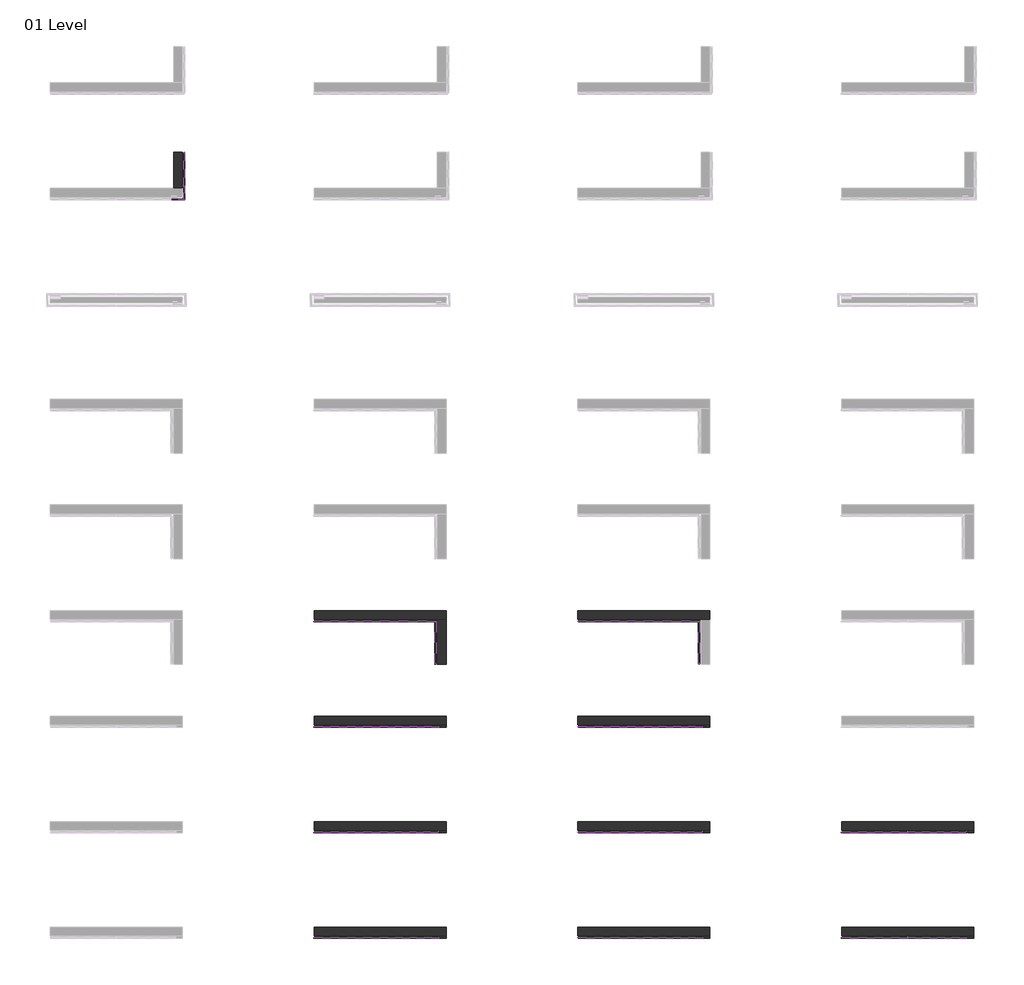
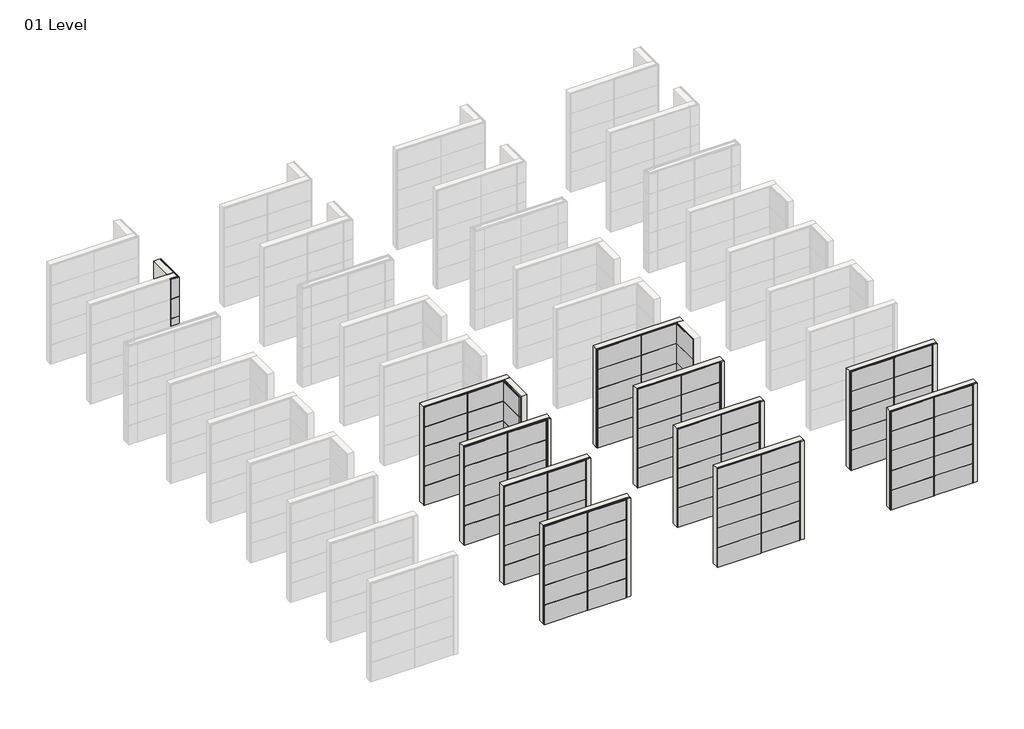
# One storey, part 2 of 9: 120 plates, 20 walls.
"""IFC4 building model written with IfcOpenShell, lengths in millimetres."""

from ifc_helpers import new_model, si_unit, frame, origin, origin_with_axes, place, context, project, spatial, polyline, outline, extrude, faceted_brep, transform, mapped, element, save
from components import plate_4ef635bb, plate_a6211809, plate_6b4a1e86, plate_a7947a21, plate_8ee23213, plate_94aa80b7, plate_22ea917c, plate_0904af44, plate_dd6e847a, plate_c598d446, plate_1391ef68, plate_2034ec5e, plate_f42e8210, plate_62c4d9ae, plate_ef433255, plate_21668e5e, plate_7a612063

model = new_model("IFC4")

# Units and contexts
model_context = context("Model", 3, world=origin())
ifc_project = project(units=[si_unit("LENGTHUNIT", "METRE", prefix="MILLI")], contexts=[model_context])

# Site, building, storey
site = spatial("IfcSite", under=ifc_project)
building = spatial("IfcBuilding", under=site)
storey = spatial("IfcBuildingStorey", under=building, Name="01 Level", Elevation=0.0)

# Plates
placement = place(None, origin())
plate_shape = plate_4ef635bb(model_context)
element("IfcPlate", 1, ObjectType="Trimo_Qbiss Screen_Normal Panel-HORIZONTAL : HR - B", at=placement, inside=storey, context=model_context, shape_type="MappedRepresentation", body=[
    mapped(plate_shape, transform((-33702.2237135, -2027.0213317, 0.0), x_axis=(0.0, -1.0, 0.0), y_axis=(1.0, 0.0, 0.0), z_axis=(0.0, 0.0, 1.0))),
])
element("IfcPlate", 2, ObjectType="Trimo_Qbiss Screen_Normal Panel-HORIZONTAL : HR - B", at=placement, inside=storey, context=model_context, shape_type="MappedRepresentation", body=[
    mapped(plate_shape, transform((-33702.2237135, -2027.0213317, 4800.0), x_axis=(0.0, -1.0, 0.0), y_axis=(1.0, 0.0, 0.0), z_axis=(0.0, 0.0, 1.0))),
])
element("IfcPlate", 3, ObjectType="Trimo_Qbiss Screen_Normal Panel-HORIZONTAL : HR - B", at=placement, inside=storey, context=model_context, shape_type="MappedRepresentation", body=[
    mapped(plate_shape, transform((-33702.2237135, -2027.0213317, 2400.0), x_axis=(0.0, -1.0, 0.0), y_axis=(1.0, 0.0, 0.0), z_axis=(0.0, 0.0, 1.0))),
])
element("IfcPlate", 4, ObjectType="Trimo_Qbiss Screen_Normal Panel-HORIZONTAL : HR - B", at=placement, inside=storey, context=model_context, shape_type="MappedRepresentation", body=[
    mapped(plate_shape, transform((-33702.2237135, -2027.0213317, 3600.0), x_axis=(0.0, -1.0, 0.0), y_axis=(1.0, 0.0, 0.0), z_axis=(0.0, 0.0, 1.0))),
])
element("IfcPlate", 5, ObjectType="Trimo_Qbiss Screen_Normal Panel-HORIZONTAL : HR - B", at=placement, inside=storey, context=model_context, shape_type="MappedRepresentation", body=[
    mapped(plate_shape, transform((-33702.2237135, -2027.0213317, 1200.0), x_axis=(0.0, -1.0, 0.0), y_axis=(1.0, 0.0, 0.0), z_axis=(0.0, 0.0, 1.0))),
])
plate_2_shape = plate_a6211809(model_context)
element("IfcPlate", 6, ObjectType="Trimo_Qbiss Screen_Normal Panel-HORIZONTAL : HR - B-F", at=placement, inside=storey, context=model_context, shape_type="MappedRepresentation", body=[
    mapped(plate_2_shape, transform((-27452.2237135, -19083.2713317, 0.0), x_axis=(-1.0, 0.0, 0.0), y_axis=(0.0, -1.0, 0.0), z_axis=(0.0, 0.0, 1.0))),
])
element("IfcPlate", 7, ObjectType="Trimo_Qbiss Screen_Normal Panel-HORIZONTAL : HR - B-F", at=placement, inside=storey, context=model_context, shape_type="MappedRepresentation", body=[
    mapped(plate_2_shape, transform((-27452.2237135, -19083.2713317, 4800.0), x_axis=(-1.0, 0.0, 0.0), y_axis=(0.0, -1.0, 0.0), z_axis=(0.0, 0.0, 1.0))),
])
element("IfcPlate", 8, ObjectType="Trimo_Qbiss Screen_Normal Panel-HORIZONTAL : HR - B-F", at=placement, inside=storey, context=model_context, shape_type="MappedRepresentation", body=[
    mapped(plate_2_shape, transform((-27452.2237135, -19083.2713317, 2400.0), x_axis=(-1.0, 0.0, 0.0), y_axis=(0.0, -1.0, 0.0), z_axis=(0.0, 0.0, 1.0))),
])
element("IfcPlate", 9, ObjectType="Trimo_Qbiss Screen_Normal Panel-HORIZONTAL : HR - B-F", at=placement, inside=storey, context=model_context, shape_type="MappedRepresentation", body=[
    mapped(plate_2_shape, transform((-27452.2237135, -19083.2713317, 3600.0), x_axis=(-1.0, 0.0, 0.0), y_axis=(0.0, -1.0, 0.0), z_axis=(0.0, 0.0, 1.0))),
])
element("IfcPlate", 10, ObjectType="Trimo_Qbiss Screen_Normal Panel-HORIZONTAL : HR - B-F", at=placement, inside=storey, context=model_context, shape_type="MappedRepresentation", body=[
    mapped(plate_2_shape, transform((-27452.2237135, -19083.2713317, 1200.0), x_axis=(-1.0, 0.0, 0.0), y_axis=(0.0, -1.0, 0.0), z_axis=(0.0, 0.0, 1.0))),
])
element("IfcPlate", 11, ObjectType="Trimo_Qbiss Screen_Normal Panel-HORIZONTAL : HR - B-F", at=placement, inside=storey, context=model_context, shape_type="MappedRepresentation", body=[
    mapped(plate_2_shape, transform((-27452.2237135, -23083.2713317, 0.0), x_axis=(-1.0, 0.0, 0.0), y_axis=(0.0, -1.0, 0.0), z_axis=(0.0, 0.0, 1.0))),
])
element("IfcPlate", 12, ObjectType="Trimo_Qbiss Screen_Normal Panel-HORIZONTAL : HR - B-F", at=placement, inside=storey, context=model_context, shape_type="MappedRepresentation", body=[
    mapped(plate_2_shape, transform((-27452.2237135, -23083.2713317, 4800.0), x_axis=(-1.0, 0.0, 0.0), y_axis=(0.0, -1.0, 0.0), z_axis=(0.0, 0.0, 1.0))),
])
element("IfcPlate", 13, ObjectType="Trimo_Qbiss Screen_Normal Panel-HORIZONTAL : HR - B-F", at=placement, inside=storey, context=model_context, shape_type="MappedRepresentation", body=[
    mapped(plate_2_shape, transform((-27452.2237135, -23083.2713317, 2400.0), x_axis=(-1.0, 0.0, 0.0), y_axis=(0.0, -1.0, 0.0), z_axis=(0.0, 0.0, 1.0))),
])
element("IfcPlate", 14, ObjectType="Trimo_Qbiss Screen_Normal Panel-HORIZONTAL : HR - B-F", at=placement, inside=storey, context=model_context, shape_type="MappedRepresentation", body=[
    mapped(plate_2_shape, transform((-27452.2237135, -23083.2713317, 3600.0), x_axis=(-1.0, 0.0, 0.0), y_axis=(0.0, -1.0, 0.0), z_axis=(0.0, 0.0, 1.0))),
])
element("IfcPlate", 15, ObjectType="Trimo_Qbiss Screen_Normal Panel-HORIZONTAL : HR - B-F", at=placement, inside=storey, context=model_context, shape_type="MappedRepresentation", body=[
    mapped(plate_2_shape, transform((-27452.2237135, -23083.2713317, 1200.0), x_axis=(-1.0, 0.0, 0.0), y_axis=(0.0, -1.0, 0.0), z_axis=(0.0, 0.0, 1.0))),
])
element("IfcPlate", 16, ObjectType="Trimo_Qbiss Screen_Normal Panel-HORIZONTAL : HR - B-F", at=placement, inside=storey, context=model_context, shape_type="MappedRepresentation", body=[
    mapped(plate_2_shape, transform((-27452.2237135, -27083.2713317, 0.0), x_axis=(-1.0, 0.0, 0.0), y_axis=(0.0, -1.0, 0.0), z_axis=(0.0, 0.0, 1.0))),
])
element("IfcPlate", 17, ObjectType="Trimo_Qbiss Screen_Normal Panel-HORIZONTAL : HR - B-F", at=placement, inside=storey, context=model_context, shape_type="MappedRepresentation", body=[
    mapped(plate_2_shape, transform((-27452.2237135, -27083.2713317, 4800.0), x_axis=(-1.0, 0.0, 0.0), y_axis=(0.0, -1.0, 0.0), z_axis=(0.0, 0.0, 1.0))),
])
element("IfcPlate", 18, ObjectType="Trimo_Qbiss Screen_Normal Panel-HORIZONTAL : HR - B-F", at=placement, inside=storey, context=model_context, shape_type="MappedRepresentation", body=[
    mapped(plate_2_shape, transform((-27452.2237135, -27083.2713317, 2400.0), x_axis=(-1.0, 0.0, 0.0), y_axis=(0.0, -1.0, 0.0), z_axis=(0.0, 0.0, 1.0))),
])
element("IfcPlate", 19, ObjectType="Trimo_Qbiss Screen_Normal Panel-HORIZONTAL : HR - B-F", at=placement, inside=storey, context=model_context, shape_type="MappedRepresentation", body=[
    mapped(plate_2_shape, transform((-27452.2237135, -27083.2713317, 3600.0), x_axis=(-1.0, 0.0, 0.0), y_axis=(0.0, -1.0, 0.0), z_axis=(0.0, 0.0, 1.0))),
])
element("IfcPlate", 20, ObjectType="Trimo_Qbiss Screen_Normal Panel-HORIZONTAL : HR - B-F", at=placement, inside=storey, context=model_context, shape_type="MappedRepresentation", body=[
    mapped(plate_2_shape, transform((-27452.2237135, -27083.2713317, 1200.0), x_axis=(-1.0, 0.0, 0.0), y_axis=(0.0, -1.0, 0.0), z_axis=(0.0, 0.0, 1.0))),
])
element("IfcPlate", 21, ObjectType="Trimo_Qbiss Screen_Normal Panel-HORIZONTAL : HR - B-F", at=placement, inside=storey, context=model_context, shape_type="MappedRepresentation", body=[
    mapped(plate_2_shape, transform((-27452.2237135, -31083.2713317, 0.0), x_axis=(-1.0, 0.0, 0.0), y_axis=(0.0, -1.0, 0.0), z_axis=(0.0, 0.0, 1.0))),
])
element("IfcPlate", 22, ObjectType="Trimo_Qbiss Screen_Normal Panel-HORIZONTAL : HR - B-F", at=placement, inside=storey, context=model_context, shape_type="MappedRepresentation", body=[
    mapped(plate_2_shape, transform((-27452.2237135, -31083.2713317, 4800.0), x_axis=(-1.0, 0.0, 0.0), y_axis=(0.0, -1.0, 0.0), z_axis=(0.0, 0.0, 1.0))),
])
element("IfcPlate", 23, ObjectType="Trimo_Qbiss Screen_Normal Panel-HORIZONTAL : HR - B-F", at=placement, inside=storey, context=model_context, shape_type="MappedRepresentation", body=[
    mapped(plate_2_shape, transform((-27452.2237135, -31083.2713317, 2400.0), x_axis=(-1.0, 0.0, 0.0), y_axis=(0.0, -1.0, 0.0), z_axis=(0.0, 0.0, 1.0))),
])
element("IfcPlate", 24, ObjectType="Trimo_Qbiss Screen_Normal Panel-HORIZONTAL : HR - B-F", at=placement, inside=storey, context=model_context, shape_type="MappedRepresentation", body=[
    mapped(plate_2_shape, transform((-27452.2237135, -31083.2713317, 3600.0), x_axis=(-1.0, 0.0, 0.0), y_axis=(0.0, -1.0, 0.0), z_axis=(0.0, 0.0, 1.0))),
])
element("IfcPlate", 25, ObjectType="Trimo_Qbiss Screen_Normal Panel-HORIZONTAL : HR - B-F", at=placement, inside=storey, context=model_context, shape_type="MappedRepresentation", body=[
    mapped(plate_2_shape, transform((-27452.2237135, -31083.2713317, 1200.0), x_axis=(-1.0, 0.0, 0.0), y_axis=(0.0, -1.0, 0.0), z_axis=(0.0, 0.0, 1.0))),
])
plate_3_shape = plate_6b4a1e86(model_context)
element("IfcPlate", 26, ObjectType="Trimo_Qbiss Screen_Normal Panel-HORIZONTAL : HR - B-F", at=placement, inside=storey, context=model_context, shape_type="MappedRepresentation", body=[
    mapped(plate_3_shape, transform((-25117.2237135, -19083.2713317, 0.0), x_axis=(-1.0, 0.0, 0.0), y_axis=(0.0, -1.0, 0.0), z_axis=(0.0, 0.0, 1.0))),
])
element("IfcPlate", 27, ObjectType="Trimo_Qbiss Screen_Normal Panel-HORIZONTAL : HR - B-F", at=placement, inside=storey, context=model_context, shape_type="MappedRepresentation", body=[
    mapped(plate_3_shape, transform((-25117.2237135, -19083.2713317, 4800.0), x_axis=(-1.0, 0.0, 0.0), y_axis=(0.0, -1.0, 0.0), z_axis=(0.0, 0.0, 1.0))),
])
element("IfcPlate", 28, ObjectType="Trimo_Qbiss Screen_Normal Panel-HORIZONTAL : HR - B-F", at=placement, inside=storey, context=model_context, shape_type="MappedRepresentation", body=[
    mapped(plate_3_shape, transform((-25117.2237135, -19083.2713317, 2400.0), x_axis=(-1.0, 0.0, 0.0), y_axis=(0.0, -1.0, 0.0), z_axis=(0.0, 0.0, 1.0))),
])
element("IfcPlate", 29, ObjectType="Trimo_Qbiss Screen_Normal Panel-HORIZONTAL : HR - B-F", at=placement, inside=storey, context=model_context, shape_type="MappedRepresentation", body=[
    mapped(plate_3_shape, transform((-25117.2237135, -19083.2713317, 3600.0), x_axis=(-1.0, 0.0, 0.0), y_axis=(0.0, -1.0, 0.0), z_axis=(0.0, 0.0, 1.0))),
])
element("IfcPlate", 30, ObjectType="Trimo_Qbiss Screen_Normal Panel-HORIZONTAL : HR - B-F", at=placement, inside=storey, context=model_context, shape_type="MappedRepresentation", body=[
    mapped(plate_3_shape, transform((-25117.2237135, -19083.2713317, 1200.0), x_axis=(-1.0, 0.0, 0.0), y_axis=(0.0, -1.0, 0.0), z_axis=(0.0, 0.0, 1.0))),
])
plate_4_shape = plate_a7947a21(model_context)
element("IfcPlate", 31, ObjectType="Trimo_Qbiss Screen_Normal Panel-HORIZONTAL : HR - B-F", at=placement, inside=storey, context=model_context, shape_type="MappedRepresentation", body=[
    mapped(plate_4_shape, transform((-25067.2237135, -23083.2713317, 0.0), x_axis=(-1.0, 0.0, 0.0), y_axis=(0.0, -1.0, 0.0), z_axis=(0.0, 0.0, 1.0))),
])
element("IfcPlate", 32, ObjectType="Trimo_Qbiss Screen_Normal Panel-HORIZONTAL : HR - B-F", at=placement, inside=storey, context=model_context, shape_type="MappedRepresentation", body=[
    mapped(plate_4_shape, transform((-25067.2237135, -23083.2713317, 4800.0), x_axis=(-1.0, 0.0, 0.0), y_axis=(0.0, -1.0, 0.0), z_axis=(0.0, 0.0, 1.0))),
])
element("IfcPlate", 33, ObjectType="Trimo_Qbiss Screen_Normal Panel-HORIZONTAL : HR - B-F", at=placement, inside=storey, context=model_context, shape_type="MappedRepresentation", body=[
    mapped(plate_4_shape, transform((-25067.2237135, -23083.2713317, 2400.0), x_axis=(-1.0, 0.0, 0.0), y_axis=(0.0, -1.0, 0.0), z_axis=(0.0, 0.0, 1.0))),
])
element("IfcPlate", 34, ObjectType="Trimo_Qbiss Screen_Normal Panel-HORIZONTAL : HR - B-F", at=placement, inside=storey, context=model_context, shape_type="MappedRepresentation", body=[
    mapped(plate_4_shape, transform((-25067.2237135, -23083.2713317, 3600.0), x_axis=(-1.0, 0.0, 0.0), y_axis=(0.0, -1.0, 0.0), z_axis=(0.0, 0.0, 1.0))),
])
element("IfcPlate", 35, ObjectType="Trimo_Qbiss Screen_Normal Panel-HORIZONTAL : HR - B-F", at=placement, inside=storey, context=model_context, shape_type="MappedRepresentation", body=[
    mapped(plate_4_shape, transform((-25067.2237135, -23083.2713317, 1200.0), x_axis=(-1.0, 0.0, 0.0), y_axis=(0.0, -1.0, 0.0), z_axis=(0.0, 0.0, 1.0))),
])
plate_5_shape = plate_8ee23213(model_context)
element("IfcPlate", 36, ObjectType="Trimo_Qbiss Screen_Normal Panel-HORIZONTAL : HR - B-F", at=placement, inside=storey, context=model_context, shape_type="MappedRepresentation", body=[
    mapped(plate_5_shape, transform((-25067.2237135, -27083.2713317, 0.0), x_axis=(-1.0, 0.0, 0.0), y_axis=(0.0, -1.0, 0.0), z_axis=(0.0, 0.0, 1.0))),
])
element("IfcPlate", 37, ObjectType="Trimo_Qbiss Screen_Normal Panel-HORIZONTAL : HR - B-F", at=placement, inside=storey, context=model_context, shape_type="MappedRepresentation", body=[
    mapped(plate_5_shape, transform((-25067.2237135, -27083.2713317, 4800.0), x_axis=(-1.0, 0.0, 0.0), y_axis=(0.0, -1.0, 0.0), z_axis=(0.0, 0.0, 1.0))),
])
element("IfcPlate", 38, ObjectType="Trimo_Qbiss Screen_Normal Panel-HORIZONTAL : HR - B-F", at=placement, inside=storey, context=model_context, shape_type="MappedRepresentation", body=[
    mapped(plate_5_shape, transform((-25067.2237135, -27083.2713317, 2400.0), x_axis=(-1.0, 0.0, 0.0), y_axis=(0.0, -1.0, 0.0), z_axis=(0.0, 0.0, 1.0))),
])
element("IfcPlate", 39, ObjectType="Trimo_Qbiss Screen_Normal Panel-HORIZONTAL : HR - B-F", at=placement, inside=storey, context=model_context, shape_type="MappedRepresentation", body=[
    mapped(plate_5_shape, transform((-25067.2237135, -27083.2713317, 3600.0), x_axis=(-1.0, 0.0, 0.0), y_axis=(0.0, -1.0, 0.0), z_axis=(0.0, 0.0, 1.0))),
])
element("IfcPlate", 40, ObjectType="Trimo_Qbiss Screen_Normal Panel-HORIZONTAL : HR - B-F", at=placement, inside=storey, context=model_context, shape_type="MappedRepresentation", body=[
    mapped(plate_5_shape, transform((-25067.2237135, -27083.2713317, 1200.0), x_axis=(-1.0, 0.0, 0.0), y_axis=(0.0, -1.0, 0.0), z_axis=(0.0, 0.0, 1.0))),
])
plate_6_shape = plate_94aa80b7(model_context)
element("IfcPlate", 41, ObjectType="Trimo_Qbiss Screen_Normal Panel-HORIZONTAL : HR - B-F", at=placement, inside=storey, context=model_context, shape_type="MappedRepresentation", body=[
    mapped(plate_6_shape, transform((-25067.2237135, -31083.2713317, 0.0), x_axis=(-1.0, 0.0, 0.0), y_axis=(0.0, -1.0, 0.0), z_axis=(0.0, 0.0, 1.0))),
])
element("IfcPlate", 42, ObjectType="Trimo_Qbiss Screen_Normal Panel-HORIZONTAL : HR - B-F", at=placement, inside=storey, context=model_context, shape_type="MappedRepresentation", body=[
    mapped(plate_6_shape, transform((-25067.2237135, -31083.2713317, 4800.0), x_axis=(-1.0, 0.0, 0.0), y_axis=(0.0, -1.0, 0.0), z_axis=(0.0, 0.0, 1.0))),
])
element("IfcPlate", 43, ObjectType="Trimo_Qbiss Screen_Normal Panel-HORIZONTAL : HR - B-F", at=placement, inside=storey, context=model_context, shape_type="MappedRepresentation", body=[
    mapped(plate_6_shape, transform((-25067.2237135, -31083.2713317, 2400.0), x_axis=(-1.0, 0.0, 0.0), y_axis=(0.0, -1.0, 0.0), z_axis=(0.0, 0.0, 1.0))),
])
element("IfcPlate", 44, ObjectType="Trimo_Qbiss Screen_Normal Panel-HORIZONTAL : HR - B-F", at=placement, inside=storey, context=model_context, shape_type="MappedRepresentation", body=[
    mapped(plate_6_shape, transform((-25067.2237135, -31083.2713317, 3600.0), x_axis=(-1.0, 0.0, 0.0), y_axis=(0.0, -1.0, 0.0), z_axis=(0.0, 0.0, 1.0))),
])
element("IfcPlate", 45, ObjectType="Trimo_Qbiss Screen_Normal Panel-HORIZONTAL : HR - B-F", at=placement, inside=storey, context=model_context, shape_type="MappedRepresentation", body=[
    mapped(plate_6_shape, transform((-25067.2237135, -31083.2713317, 1200.0), x_axis=(-1.0, 0.0, 0.0), y_axis=(0.0, -1.0, 0.0), z_axis=(0.0, 0.0, 1.0))),
])
plate_7_shape = plate_22ea917c(model_context)
element("IfcPlate", 46, ObjectType="Trimo_Qbiss Screen_Normal Panel-HORIZONTAL : HR - B-F", at=placement, inside=storey, context=model_context, shape_type="MappedRepresentation", body=[
    mapped(plate_7_shape, transform((-24032.2237135, -19933.2713317, 0.0), x_axis=(0.0, 1.0, 0.0), y_axis=(-1.0, 0.0, 0.0), z_axis=(0.0, 0.0, 1.0))),
])
element("IfcPlate", 47, ObjectType="Trimo_Qbiss Screen_Normal Panel-HORIZONTAL : HR - B-F", at=placement, inside=storey, context=model_context, shape_type="MappedRepresentation", body=[
    mapped(plate_7_shape, transform((-24032.2237135, -19933.2713317, 4800.0), x_axis=(0.0, 1.0, 0.0), y_axis=(-1.0, 0.0, 0.0), z_axis=(0.0, 0.0, 1.0))),
])
element("IfcPlate", 48, ObjectType="Trimo_Qbiss Screen_Normal Panel-HORIZONTAL : HR - B-F", at=placement, inside=storey, context=model_context, shape_type="MappedRepresentation", body=[
    mapped(plate_7_shape, transform((-24032.2237135, -19933.2713317, 2400.0), x_axis=(0.0, 1.0, 0.0), y_axis=(-1.0, 0.0, 0.0), z_axis=(0.0, 0.0, 1.0))),
])
element("IfcPlate", 49, ObjectType="Trimo_Qbiss Screen_Normal Panel-HORIZONTAL : HR - B-F", at=placement, inside=storey, context=model_context, shape_type="MappedRepresentation", body=[
    mapped(plate_7_shape, transform((-24032.2237135, -19933.2713317, 3600.0), x_axis=(0.0, 1.0, 0.0), y_axis=(-1.0, 0.0, 0.0), z_axis=(0.0, 0.0, 1.0))),
])
element("IfcPlate", 50, ObjectType="Trimo_Qbiss Screen_Normal Panel-HORIZONTAL : HR - B-F", at=placement, inside=storey, context=model_context, shape_type="MappedRepresentation", body=[
    mapped(plate_7_shape, transform((-24032.2237135, -19933.2713317, 1200.0), x_axis=(0.0, 1.0, 0.0), y_axis=(-1.0, 0.0, 0.0), z_axis=(0.0, 0.0, 1.0))),
])
plate_8_shape = plate_0904af44(model_context)
element("IfcPlate", 51, ObjectType="Trimo_Qbiss Screen_Normal Panel-HORIZONTAL : HR - FB", at=placement, inside=storey, context=model_context, shape_type="MappedRepresentation", body=[
    mapped(plate_8_shape, transform((-17452.2237135, -19083.2713317, 0.0), x_axis=(-1.0, 0.0, 0.0), y_axis=(0.0, -1.0, 0.0), z_axis=(0.0, 0.0, 1.0))),
])
element("IfcPlate", 52, ObjectType="Trimo_Qbiss Screen_Normal Panel-HORIZONTAL : HR - FB", at=placement, inside=storey, context=model_context, shape_type="MappedRepresentation", body=[
    mapped(plate_8_shape, transform((-17452.2237135, -19083.2713317, 4800.0), x_axis=(-1.0, 0.0, 0.0), y_axis=(0.0, -1.0, 0.0), z_axis=(0.0, 0.0, 1.0))),
])
element("IfcPlate", 53, ObjectType="Trimo_Qbiss Screen_Normal Panel-HORIZONTAL : HR - FB", at=placement, inside=storey, context=model_context, shape_type="MappedRepresentation", body=[
    mapped(plate_8_shape, transform((-17452.2237135, -19083.2713317, 2400.0), x_axis=(-1.0, 0.0, 0.0), y_axis=(0.0, -1.0, 0.0), z_axis=(0.0, 0.0, 1.0))),
])
element("IfcPlate", 54, ObjectType="Trimo_Qbiss Screen_Normal Panel-HORIZONTAL : HR - FB", at=placement, inside=storey, context=model_context, shape_type="MappedRepresentation", body=[
    mapped(plate_8_shape, transform((-17452.2237135, -19083.2713317, 3600.0), x_axis=(-1.0, 0.0, 0.0), y_axis=(0.0, -1.0, 0.0), z_axis=(0.0, 0.0, 1.0))),
])
element("IfcPlate", 55, ObjectType="Trimo_Qbiss Screen_Normal Panel-HORIZONTAL : HR - FB", at=placement, inside=storey, context=model_context, shape_type="MappedRepresentation", body=[
    mapped(plate_8_shape, transform((-17452.2237135, -19083.2713317, 1200.0), x_axis=(-1.0, 0.0, 0.0), y_axis=(0.0, -1.0, 0.0), z_axis=(0.0, 0.0, 1.0))),
])
element("IfcPlate", 56, ObjectType="Trimo_Qbiss Screen_Normal Panel-HORIZONTAL : HR - FB", at=placement, inside=storey, context=model_context, shape_type="MappedRepresentation", body=[
    mapped(plate_8_shape, transform((-17452.2237135, -23083.2713317, 0.0), x_axis=(-1.0, 0.0, 0.0), y_axis=(0.0, -1.0, 0.0), z_axis=(0.0, 0.0, 1.0))),
])
element("IfcPlate", 57, ObjectType="Trimo_Qbiss Screen_Normal Panel-HORIZONTAL : HR - FB", at=placement, inside=storey, context=model_context, shape_type="MappedRepresentation", body=[
    mapped(plate_8_shape, transform((-17452.2237135, -23083.2713317, 4800.0), x_axis=(-1.0, 0.0, 0.0), y_axis=(0.0, -1.0, 0.0), z_axis=(0.0, 0.0, 1.0))),
])
element("IfcPlate", 58, ObjectType="Trimo_Qbiss Screen_Normal Panel-HORIZONTAL : HR - FB", at=placement, inside=storey, context=model_context, shape_type="MappedRepresentation", body=[
    mapped(plate_8_shape, transform((-17452.2237135, -23083.2713317, 2400.0), x_axis=(-1.0, 0.0, 0.0), y_axis=(0.0, -1.0, 0.0), z_axis=(0.0, 0.0, 1.0))),
])
element("IfcPlate", 59, ObjectType="Trimo_Qbiss Screen_Normal Panel-HORIZONTAL : HR - FB", at=placement, inside=storey, context=model_context, shape_type="MappedRepresentation", body=[
    mapped(plate_8_shape, transform((-17452.2237135, -23083.2713317, 3600.0), x_axis=(-1.0, 0.0, 0.0), y_axis=(0.0, -1.0, 0.0), z_axis=(0.0, 0.0, 1.0))),
])
element("IfcPlate", 60, ObjectType="Trimo_Qbiss Screen_Normal Panel-HORIZONTAL : HR - FB", at=placement, inside=storey, context=model_context, shape_type="MappedRepresentation", body=[
    mapped(plate_8_shape, transform((-17452.2237135, -23083.2713317, 1200.0), x_axis=(-1.0, 0.0, 0.0), y_axis=(0.0, -1.0, 0.0), z_axis=(0.0, 0.0, 1.0))),
])
element("IfcPlate", 61, ObjectType="Trimo_Qbiss Screen_Normal Panel-HORIZONTAL : HR - FB", at=placement, inside=storey, context=model_context, shape_type="MappedRepresentation", body=[
    mapped(plate_8_shape, transform((-17452.2237135, -27083.2713317, 0.0), x_axis=(-1.0, 0.0, 0.0), y_axis=(0.0, -1.0, 0.0), z_axis=(0.0, 0.0, 1.0))),
])
element("IfcPlate", 62, ObjectType="Trimo_Qbiss Screen_Normal Panel-HORIZONTAL : HR - FB", at=placement, inside=storey, context=model_context, shape_type="MappedRepresentation", body=[
    mapped(plate_8_shape, transform((-17452.2237135, -27083.2713317, 4800.0), x_axis=(-1.0, 0.0, 0.0), y_axis=(0.0, -1.0, 0.0), z_axis=(0.0, 0.0, 1.0))),
])
element("IfcPlate", 63, ObjectType="Trimo_Qbiss Screen_Normal Panel-HORIZONTAL : HR - FB", at=placement, inside=storey, context=model_context, shape_type="MappedRepresentation", body=[
    mapped(plate_8_shape, transform((-17452.2237135, -27083.2713317, 2400.0), x_axis=(-1.0, 0.0, 0.0), y_axis=(0.0, -1.0, 0.0), z_axis=(0.0, 0.0, 1.0))),
])
element("IfcPlate", 64, ObjectType="Trimo_Qbiss Screen_Normal Panel-HORIZONTAL : HR - FB", at=placement, inside=storey, context=model_context, shape_type="MappedRepresentation", body=[
    mapped(plate_8_shape, transform((-17452.2237135, -27083.2713317, 3600.0), x_axis=(-1.0, 0.0, 0.0), y_axis=(0.0, -1.0, 0.0), z_axis=(0.0, 0.0, 1.0))),
])
element("IfcPlate", 65, ObjectType="Trimo_Qbiss Screen_Normal Panel-HORIZONTAL : HR - FB", at=placement, inside=storey, context=model_context, shape_type="MappedRepresentation", body=[
    mapped(plate_8_shape, transform((-17452.2237135, -27083.2713317, 1200.0), x_axis=(-1.0, 0.0, 0.0), y_axis=(0.0, -1.0, 0.0), z_axis=(0.0, 0.0, 1.0))),
])
element("IfcPlate", 66, ObjectType="Trimo_Qbiss Screen_Normal Panel-HORIZONTAL : HR - FB", at=placement, inside=storey, context=model_context, shape_type="MappedRepresentation", body=[
    mapped(plate_8_shape, transform((-17452.2237135, -31083.2713317, 0.0), x_axis=(-1.0, 0.0, 0.0), y_axis=(0.0, -1.0, 0.0), z_axis=(0.0, 0.0, 1.0))),
])
element("IfcPlate", 67, ObjectType="Trimo_Qbiss Screen_Normal Panel-HORIZONTAL : HR - FB", at=placement, inside=storey, context=model_context, shape_type="MappedRepresentation", body=[
    mapped(plate_8_shape, transform((-17452.2237135, -31083.2713317, 4800.0), x_axis=(-1.0, 0.0, 0.0), y_axis=(0.0, -1.0, 0.0), z_axis=(0.0, 0.0, 1.0))),
])
element("IfcPlate", 68, ObjectType="Trimo_Qbiss Screen_Normal Panel-HORIZONTAL : HR - FB", at=placement, inside=storey, context=model_context, shape_type="MappedRepresentation", body=[
    mapped(plate_8_shape, transform((-17452.2237135, -31083.2713317, 2400.0), x_axis=(-1.0, 0.0, 0.0), y_axis=(0.0, -1.0, 0.0), z_axis=(0.0, 0.0, 1.0))),
])
element("IfcPlate", 69, ObjectType="Trimo_Qbiss Screen_Normal Panel-HORIZONTAL : HR - FB", at=placement, inside=storey, context=model_context, shape_type="MappedRepresentation", body=[
    mapped(plate_8_shape, transform((-17452.2237135, -31083.2713317, 3600.0), x_axis=(-1.0, 0.0, 0.0), y_axis=(0.0, -1.0, 0.0), z_axis=(0.0, 0.0, 1.0))),
])
element("IfcPlate", 70, ObjectType="Trimo_Qbiss Screen_Normal Panel-HORIZONTAL : HR - FB", at=placement, inside=storey, context=model_context, shape_type="MappedRepresentation", body=[
    mapped(plate_8_shape, transform((-17452.2237135, -31083.2713317, 1200.0), x_axis=(-1.0, 0.0, 0.0), y_axis=(0.0, -1.0, 0.0), z_axis=(0.0, 0.0, 1.0))),
])
plate_9_shape = plate_dd6e847a(model_context)
element("IfcPlate", 71, ObjectType="Trimo_Qbiss Screen_Normal Panel-HORIZONTAL : HR - FB", at=placement, inside=storey, context=model_context, shape_type="MappedRepresentation", body=[
    mapped(plate_9_shape, transform((-15117.2237135, -19083.2713317, 0.0), x_axis=(-1.0, 0.0, 0.0), y_axis=(0.0, -1.0, 0.0), z_axis=(0.0, 0.0, 1.0))),
])
element("IfcPlate", 72, ObjectType="Trimo_Qbiss Screen_Normal Panel-HORIZONTAL : HR - FB", at=placement, inside=storey, context=model_context, shape_type="MappedRepresentation", body=[
    mapped(plate_9_shape, transform((-15117.2237135, -19083.2713317, 4800.0), x_axis=(-1.0, 0.0, 0.0), y_axis=(0.0, -1.0, 0.0), z_axis=(0.0, 0.0, 1.0))),
])
element("IfcPlate", 73, ObjectType="Trimo_Qbiss Screen_Normal Panel-HORIZONTAL : HR - FB", at=placement, inside=storey, context=model_context, shape_type="MappedRepresentation", body=[
    mapped(plate_9_shape, transform((-15117.2237135, -19083.2713317, 2400.0), x_axis=(-1.0, 0.0, 0.0), y_axis=(0.0, -1.0, 0.0), z_axis=(0.0, 0.0, 1.0))),
])
element("IfcPlate", 74, ObjectType="Trimo_Qbiss Screen_Normal Panel-HORIZONTAL : HR - FB", at=placement, inside=storey, context=model_context, shape_type="MappedRepresentation", body=[
    mapped(plate_9_shape, transform((-15117.2237135, -19083.2713317, 3600.0), x_axis=(-1.0, 0.0, 0.0), y_axis=(0.0, -1.0, 0.0), z_axis=(0.0, 0.0, 1.0))),
])
element("IfcPlate", 75, ObjectType="Trimo_Qbiss Screen_Normal Panel-HORIZONTAL : HR - FB", at=placement, inside=storey, context=model_context, shape_type="MappedRepresentation", body=[
    mapped(plate_9_shape, transform((-15117.2237135, -19083.2713317, 1200.0), x_axis=(-1.0, 0.0, 0.0), y_axis=(0.0, -1.0, 0.0), z_axis=(0.0, 0.0, 1.0))),
])
plate_10_shape = plate_c598d446(model_context)
element("IfcPlate", 76, ObjectType="Trimo_Qbiss Screen_Normal Panel-HORIZONTAL : HR - FB", at=placement, inside=storey, context=model_context, shape_type="MappedRepresentation", body=[
    mapped(plate_10_shape, transform((-15067.2237135, -23083.2713317, 0.0), x_axis=(-1.0, 0.0, 0.0), y_axis=(0.0, -1.0, 0.0), z_axis=(0.0, 0.0, 1.0))),
])
element("IfcPlate", 77, ObjectType="Trimo_Qbiss Screen_Normal Panel-HORIZONTAL : HR - FB", at=placement, inside=storey, context=model_context, shape_type="MappedRepresentation", body=[
    mapped(plate_10_shape, transform((-15067.2237135, -23083.2713317, 4800.0), x_axis=(-1.0, 0.0, 0.0), y_axis=(0.0, -1.0, 0.0), z_axis=(0.0, 0.0, 1.0))),
])
element("IfcPlate", 78, ObjectType="Trimo_Qbiss Screen_Normal Panel-HORIZONTAL : HR - FB", at=placement, inside=storey, context=model_context, shape_type="MappedRepresentation", body=[
    mapped(plate_10_shape, transform((-15067.2237135, -23083.2713317, 2400.0), x_axis=(-1.0, 0.0, 0.0), y_axis=(0.0, -1.0, 0.0), z_axis=(0.0, 0.0, 1.0))),
])
element("IfcPlate", 79, ObjectType="Trimo_Qbiss Screen_Normal Panel-HORIZONTAL : HR - FB", at=placement, inside=storey, context=model_context, shape_type="MappedRepresentation", body=[
    mapped(plate_10_shape, transform((-15067.2237135, -23083.2713317, 3600.0), x_axis=(-1.0, 0.0, 0.0), y_axis=(0.0, -1.0, 0.0), z_axis=(0.0, 0.0, 1.0))),
])
element("IfcPlate", 80, ObjectType="Trimo_Qbiss Screen_Normal Panel-HORIZONTAL : HR - FB", at=placement, inside=storey, context=model_context, shape_type="MappedRepresentation", body=[
    mapped(plate_10_shape, transform((-15067.2237135, -23083.2713317, 1200.0), x_axis=(-1.0, 0.0, 0.0), y_axis=(0.0, -1.0, 0.0), z_axis=(0.0, 0.0, 1.0))),
])
plate_11_shape = plate_1391ef68(model_context)
element("IfcPlate", 81, ObjectType="Trimo_Qbiss Screen_Normal Panel-HORIZONTAL : HR - FB", at=placement, inside=storey, context=model_context, shape_type="MappedRepresentation", body=[
    mapped(plate_11_shape, transform((-15067.2237135, -27083.2713317, 0.0), x_axis=(-1.0, 0.0, 0.0), y_axis=(0.0, -1.0, 0.0), z_axis=(0.0, 0.0, 1.0))),
])
element("IfcPlate", 82, ObjectType="Trimo_Qbiss Screen_Normal Panel-HORIZONTAL : HR - FB", at=placement, inside=storey, context=model_context, shape_type="MappedRepresentation", body=[
    mapped(plate_11_shape, transform((-15067.2237135, -27083.2713317, 4800.0), x_axis=(-1.0, 0.0, 0.0), y_axis=(0.0, -1.0, 0.0), z_axis=(0.0, 0.0, 1.0))),
])
element("IfcPlate", 83, ObjectType="Trimo_Qbiss Screen_Normal Panel-HORIZONTAL : HR - FB", at=placement, inside=storey, context=model_context, shape_type="MappedRepresentation", body=[
    mapped(plate_11_shape, transform((-15067.2237135, -27083.2713317, 2400.0), x_axis=(-1.0, 0.0, 0.0), y_axis=(0.0, -1.0, 0.0), z_axis=(0.0, 0.0, 1.0))),
])
element("IfcPlate", 84, ObjectType="Trimo_Qbiss Screen_Normal Panel-HORIZONTAL : HR - FB", at=placement, inside=storey, context=model_context, shape_type="MappedRepresentation", body=[
    mapped(plate_11_shape, transform((-15067.2237135, -27083.2713317, 3600.0), x_axis=(-1.0, 0.0, 0.0), y_axis=(0.0, -1.0, 0.0), z_axis=(0.0, 0.0, 1.0))),
])
element("IfcPlate", 85, ObjectType="Trimo_Qbiss Screen_Normal Panel-HORIZONTAL : HR - FB", at=placement, inside=storey, context=model_context, shape_type="MappedRepresentation", body=[
    mapped(plate_11_shape, transform((-15067.2237135, -27083.2713317, 1200.0), x_axis=(-1.0, 0.0, 0.0), y_axis=(0.0, -1.0, 0.0), z_axis=(0.0, 0.0, 1.0))),
])
plate_12_shape = plate_2034ec5e(model_context)
element("IfcPlate", 86, ObjectType="Trimo_Qbiss Screen_Normal Panel-HORIZONTAL : HR - FB", at=placement, inside=storey, context=model_context, shape_type="MappedRepresentation", body=[
    mapped(plate_12_shape, transform((-15067.2237135, -31083.2713317, 0.0), x_axis=(-1.0, 0.0, 0.0), y_axis=(0.0, -1.0, 0.0), z_axis=(0.0, 0.0, 1.0))),
])
element("IfcPlate", 87, ObjectType="Trimo_Qbiss Screen_Normal Panel-HORIZONTAL : HR - FB", at=placement, inside=storey, context=model_context, shape_type="MappedRepresentation", body=[
    mapped(plate_12_shape, transform((-15067.2237135, -31083.2713317, 4800.0), x_axis=(-1.0, 0.0, 0.0), y_axis=(0.0, -1.0, 0.0), z_axis=(0.0, 0.0, 1.0))),
])
element("IfcPlate", 88, ObjectType="Trimo_Qbiss Screen_Normal Panel-HORIZONTAL : HR - FB", at=placement, inside=storey, context=model_context, shape_type="MappedRepresentation", body=[
    mapped(plate_12_shape, transform((-15067.2237135, -31083.2713317, 2400.0), x_axis=(-1.0, 0.0, 0.0), y_axis=(0.0, -1.0, 0.0), z_axis=(0.0, 0.0, 1.0))),
])
element("IfcPlate", 89, ObjectType="Trimo_Qbiss Screen_Normal Panel-HORIZONTAL : HR - FB", at=placement, inside=storey, context=model_context, shape_type="MappedRepresentation", body=[
    mapped(plate_12_shape, transform((-15067.2237135, -31083.2713317, 3600.0), x_axis=(-1.0, 0.0, 0.0), y_axis=(0.0, -1.0, 0.0), z_axis=(0.0, 0.0, 1.0))),
])
element("IfcPlate", 90, ObjectType="Trimo_Qbiss Screen_Normal Panel-HORIZONTAL : HR - FB", at=placement, inside=storey, context=model_context, shape_type="MappedRepresentation", body=[
    mapped(plate_12_shape, transform((-15067.2237135, -31083.2713317, 1200.0), x_axis=(-1.0, 0.0, 0.0), y_axis=(0.0, -1.0, 0.0), z_axis=(0.0, 0.0, 1.0))),
])
plate_13_shape = plate_f42e8210(model_context)
element("IfcPlate", 91, ObjectType="Trimo_Qbiss Screen_Normal Panel-HORIZONTAL : HR - FB", at=placement, inside=storey, context=model_context, shape_type="MappedRepresentation", body=[
    mapped(plate_13_shape, transform((-14032.2237135, -19933.2713317, 0.0), x_axis=(0.0, 1.0, 0.0), y_axis=(-1.0, 0.0, 0.0), z_axis=(0.0, 0.0, 1.0))),
])
element("IfcPlate", 92, ObjectType="Trimo_Qbiss Screen_Normal Panel-HORIZONTAL : HR - FB", at=placement, inside=storey, context=model_context, shape_type="MappedRepresentation", body=[
    mapped(plate_13_shape, transform((-14032.2237135, -19933.2713317, 4800.0), x_axis=(0.0, 1.0, 0.0), y_axis=(-1.0, 0.0, 0.0), z_axis=(0.0, 0.0, 1.0))),
])
element("IfcPlate", 93, ObjectType="Trimo_Qbiss Screen_Normal Panel-HORIZONTAL : HR - FB", at=placement, inside=storey, context=model_context, shape_type="MappedRepresentation", body=[
    mapped(plate_13_shape, transform((-14032.2237135, -19933.2713317, 2400.0), x_axis=(0.0, 1.0, 0.0), y_axis=(-1.0, 0.0, 0.0), z_axis=(0.0, 0.0, 1.0))),
])
element("IfcPlate", 94, ObjectType="Trimo_Qbiss Screen_Normal Panel-HORIZONTAL : HR - FB", at=placement, inside=storey, context=model_context, shape_type="MappedRepresentation", body=[
    mapped(plate_13_shape, transform((-14032.2237135, -19933.2713317, 3600.0), x_axis=(0.0, 1.0, 0.0), y_axis=(-1.0, 0.0, 0.0), z_axis=(0.0, 0.0, 1.0))),
])
element("IfcPlate", 95, ObjectType="Trimo_Qbiss Screen_Normal Panel-HORIZONTAL : HR - FB", at=placement, inside=storey, context=model_context, shape_type="MappedRepresentation", body=[
    mapped(plate_13_shape, transform((-14032.2237135, -19933.2713317, 1200.0), x_axis=(0.0, 1.0, 0.0), y_axis=(-1.0, 0.0, 0.0), z_axis=(0.0, 0.0, 1.0))),
])
plate_14_shape = plate_62c4d9ae(model_context)
element("IfcPlate", 96, ObjectType="Trimo_Qbiss Screen_Normal Panel-HORIZONTAL : HR - FB-F", at=placement, inside=storey, context=model_context, shape_type="MappedRepresentation", body=[
    mapped(plate_14_shape, transform((-7452.2237135, -27083.2713317, 0.0), x_axis=(-1.0, 0.0, 0.0), y_axis=(0.0, -1.0, 0.0), z_axis=(0.0, 0.0, 1.0))),
])
element("IfcPlate", 97, ObjectType="Trimo_Qbiss Screen_Normal Panel-HORIZONTAL : HR - FB-F", at=placement, inside=storey, context=model_context, shape_type="MappedRepresentation", body=[
    mapped(plate_14_shape, transform((-7452.2237135, -27083.2713317, 4800.0), x_axis=(-1.0, 0.0, 0.0), y_axis=(0.0, -1.0, 0.0), z_axis=(0.0, 0.0, 1.0))),
])
element("IfcPlate", 98, ObjectType="Trimo_Qbiss Screen_Normal Panel-HORIZONTAL : HR - FB-F", at=placement, inside=storey, context=model_context, shape_type="MappedRepresentation", body=[
    mapped(plate_14_shape, transform((-7452.2237135, -27083.2713317, 2400.0), x_axis=(-1.0, 0.0, 0.0), y_axis=(0.0, -1.0, 0.0), z_axis=(0.0, 0.0, 1.0))),
])
element("IfcPlate", 99, ObjectType="Trimo_Qbiss Screen_Normal Panel-HORIZONTAL : HR - FB-F", at=placement, inside=storey, context=model_context, shape_type="MappedRepresentation", body=[
    mapped(plate_14_shape, transform((-7452.2237135, -27083.2713317, 3600.0), x_axis=(-1.0, 0.0, 0.0), y_axis=(0.0, -1.0, 0.0), z_axis=(0.0, 0.0, 1.0))),
])
element("IfcPlate", 100, ObjectType="Trimo_Qbiss Screen_Normal Panel-HORIZONTAL : HR - FB-F", at=placement, inside=storey, context=model_context, shape_type="MappedRepresentation", body=[
    mapped(plate_14_shape, transform((-7452.2237135, -27083.2713317, 1200.0), x_axis=(-1.0, 0.0, 0.0), y_axis=(0.0, -1.0, 0.0), z_axis=(0.0, 0.0, 1.0))),
])
element("IfcPlate", 101, ObjectType="Trimo_Qbiss Screen_Normal Panel-HORIZONTAL : HR - FB-F", at=placement, inside=storey, context=model_context, shape_type="MappedRepresentation", body=[
    mapped(plate_14_shape, transform((-7452.2237135, -31083.2713317, 0.0), x_axis=(-1.0, 0.0, 0.0), y_axis=(0.0, -1.0, 0.0), z_axis=(0.0, 0.0, 1.0))),
])
element("IfcPlate", 102, ObjectType="Trimo_Qbiss Screen_Normal Panel-HORIZONTAL : HR - FB-F", at=placement, inside=storey, context=model_context, shape_type="MappedRepresentation", body=[
    mapped(plate_14_shape, transform((-7452.2237135, -31083.2713317, 4800.0), x_axis=(-1.0, 0.0, 0.0), y_axis=(0.0, -1.0, 0.0), z_axis=(0.0, 0.0, 1.0))),
])
element("IfcPlate", 103, ObjectType="Trimo_Qbiss Screen_Normal Panel-HORIZONTAL : HR - FB-F", at=placement, inside=storey, context=model_context, shape_type="MappedRepresentation", body=[
    mapped(plate_14_shape, transform((-7452.2237135, -31083.2713317, 2400.0), x_axis=(-1.0, 0.0, 0.0), y_axis=(0.0, -1.0, 0.0), z_axis=(0.0, 0.0, 1.0))),
])
element("IfcPlate", 104, ObjectType="Trimo_Qbiss Screen_Normal Panel-HORIZONTAL : HR - FB-F", at=placement, inside=storey, context=model_context, shape_type="MappedRepresentation", body=[
    mapped(plate_14_shape, transform((-7452.2237135, -31083.2713317, 3600.0), x_axis=(-1.0, 0.0, 0.0), y_axis=(0.0, -1.0, 0.0), z_axis=(0.0, 0.0, 1.0))),
])
element("IfcPlate", 105, ObjectType="Trimo_Qbiss Screen_Normal Panel-HORIZONTAL : HR - FB-F", at=placement, inside=storey, context=model_context, shape_type="MappedRepresentation", body=[
    mapped(plate_14_shape, transform((-7452.2237135, -31083.2713317, 1200.0), x_axis=(-1.0, 0.0, 0.0), y_axis=(0.0, -1.0, 0.0), z_axis=(0.0, 0.0, 1.0))),
])
plate_15_shape = plate_ef433255(model_context)
element("IfcPlate", 106, ObjectType="Trimo_Qbiss Screen_Normal Panel-HORIZONTAL : HR - FB-F", at=placement, inside=storey, context=model_context, shape_type="MappedRepresentation", body=[
    mapped(plate_15_shape, transform((-5067.2237135, -27083.2713317, 0.0), x_axis=(-1.0, 0.0, 0.0), y_axis=(0.0, -1.0, 0.0), z_axis=(0.0, 0.0, 1.0))),
])
element("IfcPlate", 107, ObjectType="Trimo_Qbiss Screen_Normal Panel-HORIZONTAL : HR - FB-F", at=placement, inside=storey, context=model_context, shape_type="MappedRepresentation", body=[
    mapped(plate_15_shape, transform((-5067.2237135, -27083.2713317, 4800.0), x_axis=(-1.0, 0.0, 0.0), y_axis=(0.0, -1.0, 0.0), z_axis=(0.0, 0.0, 1.0))),
])
element("IfcPlate", 108, ObjectType="Trimo_Qbiss Screen_Normal Panel-HORIZONTAL : HR - FB-F", at=placement, inside=storey, context=model_context, shape_type="MappedRepresentation", body=[
    mapped(plate_15_shape, transform((-5067.2237135, -27083.2713317, 2400.0), x_axis=(-1.0, 0.0, 0.0), y_axis=(0.0, -1.0, 0.0), z_axis=(0.0, 0.0, 1.0))),
])
element("IfcPlate", 109, ObjectType="Trimo_Qbiss Screen_Normal Panel-HORIZONTAL : HR - FB-F", at=placement, inside=storey, context=model_context, shape_type="MappedRepresentation", body=[
    mapped(plate_15_shape, transform((-5067.2237135, -27083.2713317, 3600.0), x_axis=(-1.0, 0.0, 0.0), y_axis=(0.0, -1.0, 0.0), z_axis=(0.0, 0.0, 1.0))),
])
element("IfcPlate", 110, ObjectType="Trimo_Qbiss Screen_Normal Panel-HORIZONTAL : HR - FB-F", at=placement, inside=storey, context=model_context, shape_type="MappedRepresentation", body=[
    mapped(plate_15_shape, transform((-5067.2237135, -27083.2713317, 1200.0), x_axis=(-1.0, 0.0, 0.0), y_axis=(0.0, -1.0, 0.0), z_axis=(0.0, 0.0, 1.0))),
])
plate_16_shape = plate_21668e5e(model_context)
element("IfcPlate", 111, ObjectType="Trimo_Qbiss Screen_Normal Panel-HORIZONTAL : HR - FB-F", at=placement, inside=storey, context=model_context, shape_type="MappedRepresentation", body=[
    mapped(plate_16_shape, transform((-5067.2237135, -31083.2713317, 0.0), x_axis=(-1.0, 0.0, 0.0), y_axis=(0.0, -1.0, 0.0), z_axis=(0.0, 0.0, 1.0))),
])
element("IfcPlate", 112, ObjectType="Trimo_Qbiss Screen_Normal Panel-HORIZONTAL : HR - FB-F", at=placement, inside=storey, context=model_context, shape_type="MappedRepresentation", body=[
    mapped(plate_16_shape, transform((-5067.2237135, -31083.2713317, 4800.0), x_axis=(-1.0, 0.0, 0.0), y_axis=(0.0, -1.0, 0.0), z_axis=(0.0, 0.0, 1.0))),
])
element("IfcPlate", 113, ObjectType="Trimo_Qbiss Screen_Normal Panel-HORIZONTAL : HR - FB-F", at=placement, inside=storey, context=model_context, shape_type="MappedRepresentation", body=[
    mapped(plate_16_shape, transform((-5067.2237135, -31083.2713317, 2400.0), x_axis=(-1.0, 0.0, 0.0), y_axis=(0.0, -1.0, 0.0), z_axis=(0.0, 0.0, 1.0))),
])
element("IfcPlate", 114, ObjectType="Trimo_Qbiss Screen_Normal Panel-HORIZONTAL : HR - FB-F", at=placement, inside=storey, context=model_context, shape_type="MappedRepresentation", body=[
    mapped(plate_16_shape, transform((-5067.2237135, -31083.2713317, 3600.0), x_axis=(-1.0, 0.0, 0.0), y_axis=(0.0, -1.0, 0.0), z_axis=(0.0, 0.0, 1.0))),
])
element("IfcPlate", 115, ObjectType="Trimo_Qbiss Screen_Normal Panel-HORIZONTAL : HR - FB-F", at=placement, inside=storey, context=model_context, shape_type="MappedRepresentation", body=[
    mapped(plate_16_shape, transform((-5067.2237135, -31083.2713317, 1200.0), x_axis=(-1.0, 0.0, 0.0), y_axis=(0.0, -1.0, 0.0), z_axis=(0.0, 0.0, 1.0))),
])
plate_17_shape = plate_7a612063(model_context)
element("IfcPlate", 116, ObjectType="Trimo_Qbiss Screen_L Corner Panel-HORIZONTAL : HR - B", at=placement, inside=storey, context=model_context, shape_type="MappedRepresentation", body=[
    mapped(plate_17_shape, transform((-33702.2237135, -2877.0213317, 0.0), x_axis=(0.0, -1.0, 0.0), y_axis=(1.0, 0.0, 0.0), z_axis=(0.0, 0.0, 1.0))),
])
element("IfcPlate", 117, ObjectType="Trimo_Qbiss Screen_L Corner Panel-HORIZONTAL : HR - B", at=placement, inside=storey, context=model_context, shape_type="MappedRepresentation", body=[
    mapped(plate_17_shape, transform((-33702.2237135, -2877.0213317, 1200.0), x_axis=(0.0, -1.0, 0.0), y_axis=(1.0, 0.0, 0.0), z_axis=(0.0, 0.0, 1.0))),
])
element("IfcPlate", 118, ObjectType="Trimo_Qbiss Screen_L Corner Panel-HORIZONTAL : HR - B", at=placement, inside=storey, context=model_context, shape_type="MappedRepresentation", body=[
    mapped(plate_17_shape, transform((-33702.2237135, -2877.0213317, 2400.0), x_axis=(0.0, -1.0, 0.0), y_axis=(1.0, 0.0, 0.0), z_axis=(0.0, 0.0, 1.0))),
])
element("IfcPlate", 119, ObjectType="Trimo_Qbiss Screen_L Corner Panel-HORIZONTAL : HR - B", at=placement, inside=storey, context=model_context, shape_type="MappedRepresentation", body=[
    mapped(plate_17_shape, transform((-33702.2237135, -2877.0213317, 3600.0), x_axis=(0.0, -1.0, 0.0), y_axis=(1.0, 0.0, 0.0), z_axis=(0.0, 0.0, 1.0))),
])
element("IfcPlate", 120, ObjectType="Trimo_Qbiss Screen_L Corner Panel-HORIZONTAL : HR - B", at=placement, inside=storey, context=model_context, shape_type="MappedRepresentation", body=[
    mapped(plate_17_shape, transform((-33702.2237135, -2877.0213317, 4800.0), x_axis=(0.0, -1.0, 0.0), y_axis=(1.0, 0.0, 0.0), z_axis=(0.0, 0.0, 1.0))),
])

# Walls
element("IfcWall", 121, ObjectType="Wall - Showcase Project Wall - 330", at=placement, inside=storey, context=model_context, shape_type="SweptSolid", body=[
    extrude(outline(polyline([(-33702.2237135, -1383.2713317), (-33702.2237135, -2753.2713317), (-34032.2237135, -2753.2713317), (-34032.2237135, -1383.2713317), (-33702.2237135, -1383.2713317)])), origin_with_axes(), (0.0, 0.0, 1.0), 6000.0),
])
element("IfcWall", 122, ObjectType="Wall - Showcase Project Wall - 330", at=placement, inside=storey, context=model_context, shape_type="Brep", body=[
    faceted_brep([(-23702.2237135, -18753.2713317, 0.0), (-28702.2237135, -18753.2713317, 0.0), (-28702.2237135, -18753.2713317, 6000.0), (-23702.2237135, -18753.2713317, 6000.0), (-23702.2237135, -19083.2713317, 0.0), (-23702.2237135, -19083.2713317, 6000.0), (-24032.2237135, -19083.2713317, 6000.0), (-28702.2237135, -19083.2713317, 6000.0), (-28702.2237135, -19083.2713317, 0.0), (-24032.2237135, -19083.2713317, 0.0)], [[[0, 1, 2, 3]], [[4, 5, 6, 7, 8, 9]], [[1, 0, 4, 9, 8]], [[2, 1, 8, 7]], [[3, 2, 7, 6, 5]], [[0, 3, 5, 4]]]),
])
element("IfcWall", 123, ObjectType="Wall - Showcase Project Wall - 330", at=placement, inside=storey, context=model_context, shape_type="SweptSolid", body=[
    extrude(outline(polyline([(-24032.2237135, -20783.2713317), (-24032.2237135, -19083.2713317), (-23702.2237135, -19083.2713317), (-23702.2237135, -20783.2713317), (-24032.2237135, -20783.2713317)])), origin_with_axes(), (0.0, 0.0, 1.0), 6000.0),
])
element("IfcWall", 124, ObjectType="Wall - Showcase Project Wall - 330", at=placement, inside=storey, context=model_context, shape_type="Brep", body=[
    faceted_brep([(-23702.2237135, -22753.2713317, 0.0), (-28702.2237135, -22753.2713317, 0.0), (-28702.2237135, -22753.2713317, 6000.0), (-23702.2237135, -22753.2713317, 6000.0), (-23702.2237135, -23083.2713317, 0.0), (-23702.2237135, -23083.2713317, 6000.0), (-23932.2237135, -23083.2713317, 6000.0), (-28702.2237135, -23083.2713317, 6000.0), (-28702.2237135, -23083.2713317, 0.0), (-23932.2237135, -23083.2713317, 0.0)], [[[0, 1, 2, 3]], [[4, 5, 6, 7, 8, 9]], [[1, 0, 4, 9, 8]], [[2, 1, 8, 7]], [[3, 2, 7, 6, 5]], [[0, 3, 5, 4]]]),
])
element("IfcWall", 125, ObjectType="Wall - Showcase Project Wall - 230", at=placement, inside=storey, context=model_context, shape_type="SweptSolid", body=[
    extrude(outline(polyline([(6000.0, -23932.2237135), (0.0, -23932.2237135), (0.0, -23732.2237135), (0.0, -23702.2237135), (6000.0, -23702.2237135), (6000.0, -23932.2237135)])), frame((0.0, -23176.4713317, 0.0), z_axis=(0.0, 1.0, 0.0), x_axis=(0.0, 0.0, 1.0)), (0.0, 0.0, 1.0), 93.2),
])
element("IfcWall", 126, ObjectType="Wall - Showcase Project Wall - 330", at=placement, inside=storey, context=model_context, shape_type="Brep", body=[
    faceted_brep([(-23702.2237135, -26753.2713317, 0.0), (-28702.2237135, -26753.2713317, 0.0), (-28702.2237135, -26753.2713317, 6000.0), (-23702.2237135, -26753.2713317, 6000.0), (-23702.2237135, -27083.2713317, 0.0), (-23702.2237135, -27083.2713317, 6000.0), (-23932.2237135, -27083.2713317, 6000.0), (-28702.2237135, -27083.2713317, 6000.0), (-28702.2237135, -27083.2713317, 0.0), (-23932.2237135, -27083.2713317, 0.0)], [[[0, 1, 2, 3]], [[4, 5, 6, 7, 8, 9]], [[1, 0, 4, 9, 8]], [[2, 1, 8, 7]], [[3, 2, 7, 6, 5]], [[0, 3, 5, 4]]]),
])
element("IfcWall", 127, ObjectType="Wall - Showcase Project Wall - 230", at=placement, inside=storey, context=model_context, shape_type="SweptSolid", body=[
    extrude(outline(polyline([(6000.0, -23932.2237135), (0.0, -23932.2237135), (0.0, -23732.2237135), (0.0, -23702.2237135), (6000.0, -23702.2237135), (6000.0, -23932.2237135)])), frame((0.0, -27183.2713317, 0.0), z_axis=(0.0, 1.0, 0.0), x_axis=(0.0, 0.0, 1.0)), (0.0, 0.0, 1.0), 100.0),
])
element("IfcWall", 128, ObjectType="Wall - Showcase Project Wall - 330", at=placement, inside=storey, context=model_context, shape_type="Brep", body=[
    faceted_brep([(-23702.2237135, -30753.2713317, 0.0), (-28702.2237135, -30753.2713317, 0.0), (-28702.2237135, -30753.2713317, 6000.0), (-23702.2237135, -30753.2713317, 6000.0), (-23702.2237135, -31083.2713317, 0.0), (-23702.2237135, -31083.2713317, 6000.0), (-23932.2237135, -31083.2713317, 6000.0), (-28702.2237135, -31083.2713317, 6000.0), (-28702.2237135, -31083.2713317, 0.0), (-23932.2237135, -31083.2713317, 0.0)], [[[0, 1, 2, 3]], [[4, 5, 6, 7, 8, 9]], [[1, 0, 4, 9, 8]], [[2, 1, 8, 7]], [[3, 2, 7, 6, 5]], [[0, 3, 5, 4]]]),
])
element("IfcWall", 129, ObjectType="Wall - Showcase Project Wall - 230", at=placement, inside=storey, context=model_context, shape_type="SweptSolid", body=[
    extrude(outline(polyline([(6000.0, -23932.2237135), (0.0, -23932.2237135), (0.0, -23732.2237135), (0.0, -23702.2237135), (6000.0, -23702.2237135), (6000.0, -23932.2237135)])), frame((0.0, -31183.2713317, 0.0), z_axis=(0.0, 1.0, 0.0), x_axis=(0.0, 0.0, 1.0)), (0.0, 0.0, 1.0), 100.0),
])
element("IfcWall", 130, ObjectType="Wall - Showcase Project Wall - 330", at=placement, inside=storey, context=model_context, shape_type="Brep", body=[
    faceted_brep([(-13702.2237135, -18753.2713317, 0.0), (-18702.2237135, -18753.2713317, 0.0), (-18702.2237135, -18753.2713317, 6000.0), (-13702.2237135, -18753.2713317, 6000.0), (-13702.2237135, -19083.2713317, 0.0), (-13702.2237135, -19083.2713317, 6000.0), (-14032.2237135, -19083.2713317, 6000.0), (-18702.2237135, -19083.2713317, 6000.0), (-18702.2237135, -19083.2713317, 0.0), (-14032.2237135, -19083.2713317, 0.0)], [[[0, 1, 2, 3]], [[4, 5, 6, 7, 8, 9]], [[1, 0, 4, 9, 8]], [[2, 1, 8, 7]], [[3, 2, 7, 6, 5]], [[0, 3, 5, 4]]]),
])
element("IfcWall", 131, ObjectType="Wall - Showcase Project Wall - 330", at=placement, inside=storey, context=model_context, shape_type="Brep", body=[
    faceted_brep([(-13702.2237135, -22753.2713317, 0.0), (-18702.2237135, -22753.2713317, 0.0), (-18702.2237135, -22753.2713317, 6000.0), (-13702.2237135, -22753.2713317, 6000.0), (-13702.2237135, -23083.2713317, 0.0), (-13702.2237135, -23083.2713317, 6000.0), (-13932.2237135, -23083.2713317, 6000.0), (-18702.2237135, -23083.2713317, 6000.0), (-18702.2237135, -23083.2713317, 0.0), (-13932.2237135, -23083.2713317, 0.0)], [[[0, 1, 2, 3]], [[4, 5, 6, 7, 8, 9]], [[1, 0, 4, 9, 8]], [[2, 1, 8, 7]], [[3, 2, 7, 6, 5]], [[0, 3, 5, 4]]]),
])
element("IfcWall", 132, ObjectType="Wall - Showcase Project Wall - 230", at=placement, inside=storey, context=model_context, shape_type="SweptSolid", body=[
    extrude(outline(polyline([(6000.0, -13932.2237135), (0.0, -13932.2237135), (0.0, -13732.2237135), (0.0, -13702.2237135), (6000.0, -13702.2237135), (6000.0, -13932.2237135)])), frame((0.0, -23176.4713317, 0.0), z_axis=(0.0, 1.0, 0.0), x_axis=(0.0, 0.0, 1.0)), (0.0, 0.0, 1.0), 93.2),
])
element("IfcWall", 133, ObjectType="Wall - Showcase Project Wall - 330", at=placement, inside=storey, context=model_context, shape_type="Brep", body=[
    faceted_brep([(-13702.2237135, -26753.2713317, 0.0), (-18702.2237135, -26753.2713317, 0.0), (-18702.2237135, -26753.2713317, 6000.0), (-13702.2237135, -26753.2713317, 6000.0), (-13702.2237135, -27083.2713317, 0.0), (-13702.2237135, -27083.2713317, 6000.0), (-13932.2237135, -27083.2713317, 6000.0), (-18702.2237135, -27083.2713317, 6000.0), (-18702.2237135, -27083.2713317, 0.0), (-13932.2237135, -27083.2713317, 0.0)], [[[0, 1, 2, 3]], [[4, 5, 6, 7, 8, 9]], [[1, 0, 4, 9, 8]], [[2, 1, 8, 7]], [[3, 2, 7, 6, 5]], [[0, 3, 5, 4]]]),
])
element("IfcWall", 134, ObjectType="Wall - Showcase Project Wall - 230", at=placement, inside=storey, context=model_context, shape_type="SweptSolid", body=[
    extrude(outline(polyline([(6000.0, -13932.2237135), (0.0, -13932.2237135), (0.0, -13732.2237135), (0.0, -13702.2237135), (6000.0, -13702.2237135), (6000.0, -13932.2237135)])), frame((0.0, -27183.2713317, 0.0), z_axis=(0.0, 1.0, 0.0), x_axis=(0.0, 0.0, 1.0)), (0.0, 0.0, 1.0), 100.0),
])
element("IfcWall", 135, ObjectType="Wall - Showcase Project Wall - 330", at=placement, inside=storey, context=model_context, shape_type="Brep", body=[
    faceted_brep([(-13702.2237135, -30753.2713317, 0.0), (-18702.2237135, -30753.2713317, 0.0), (-18702.2237135, -30753.2713317, 6000.0), (-13702.2237135, -30753.2713317, 6000.0), (-13702.2237135, -31083.2713317, 0.0), (-13702.2237135, -31083.2713317, 6000.0), (-13932.2237135, -31083.2713317, 6000.0), (-18702.2237135, -31083.2713317, 6000.0), (-18702.2237135, -31083.2713317, 0.0), (-13932.2237135, -31083.2713317, 0.0)], [[[0, 1, 2, 3]], [[4, 5, 6, 7, 8, 9]], [[1, 0, 4, 9, 8]], [[2, 1, 8, 7]], [[3, 2, 7, 6, 5]], [[0, 3, 5, 4]]]),
])
element("IfcWall", 136, ObjectType="Wall - Showcase Project Wall - 230", at=placement, inside=storey, context=model_context, shape_type="SweptSolid", body=[
    extrude(outline(polyline([(6000.0, -13932.2237135), (0.0, -13932.2237135), (0.0, -13732.2237135), (0.0, -13702.2237135), (6000.0, -13702.2237135), (6000.0, -13932.2237135)])), frame((0.0, -31183.2713317, 0.0), z_axis=(0.0, 1.0, 0.0), x_axis=(0.0, 0.0, 1.0)), (0.0, 0.0, 1.0), 100.0),
])
element("IfcWall", 137, ObjectType="Wall - Showcase Project Wall - 330", at=placement, inside=storey, context=model_context, shape_type="Brep", body=[
    faceted_brep([(-3702.2237135, -26753.2713317, 0.0), (-8702.2237135, -26753.2713317, 0.0), (-8702.2237135, -26753.2713317, 6000.0), (-3702.2237135, -26753.2713317, 6000.0), (-3702.2237135, -27083.2713317, 0.0), (-3702.2237135, -27083.2713317, 6000.0), (-3932.2237135, -27083.2713317, 6000.0), (-8702.2237135, -27083.2713317, 6000.0), (-8702.2237135, -27083.2713317, 0.0), (-3932.2237135, -27083.2713317, 0.0)], [[[0, 1, 2, 3]], [[4, 5, 6, 7, 8, 9]], [[1, 0, 4, 9, 8]], [[2, 1, 8, 7]], [[3, 2, 7, 6, 5]], [[0, 3, 5, 4]]]),
])
element("IfcWall", 138, ObjectType="Wall - Showcase Project Wall - 230", at=placement, inside=storey, context=model_context, shape_type="SweptSolid", body=[
    extrude(outline(polyline([(6000.0, -3932.2237135), (0.0, -3932.2237135), (0.0, -3732.2237135), (0.0, -3702.2237135), (6000.0, -3702.2237135), (6000.0, -3932.2237135)])), frame((0.0, -27183.2713317, 0.0), z_axis=(0.0, 1.0, 0.0), x_axis=(0.0, 0.0, 1.0)), (0.0, 0.0, 1.0), 100.0),
])
element("IfcWall", 139, ObjectType="Wall - Showcase Project Wall - 330", at=placement, inside=storey, context=model_context, shape_type="Brep", body=[
    faceted_brep([(-3702.2237135, -30753.2713317, 0.0), (-8702.2237135, -30753.2713317, 0.0), (-8702.2237135, -30753.2713317, 6000.0), (-3702.2237135, -30753.2713317, 6000.0), (-3702.2237135, -31083.2713317, 0.0), (-3702.2237135, -31083.2713317, 6000.0), (-3932.2237135, -31083.2713317, 6000.0), (-8702.2237135, -31083.2713317, 6000.0), (-8702.2237135, -31083.2713317, 0.0), (-3932.2237135, -31083.2713317, 0.0)], [[[0, 1, 2, 3]], [[4, 5, 6, 7, 8, 9]], [[1, 0, 4, 9, 8]], [[2, 1, 8, 7]], [[3, 2, 7, 6, 5]], [[0, 3, 5, 4]]]),
])
element("IfcWall", 140, ObjectType="Wall - Showcase Project Wall - 230", at=placement, inside=storey, context=model_context, shape_type="SweptSolid", body=[
    extrude(outline(polyline([(6000.0, -3932.2237135), (0.0, -3932.2237135), (0.0, -3732.2237135), (0.0, -3702.2237135), (6000.0, -3702.2237135), (6000.0, -3932.2237135)])), frame((0.0, -31183.2713317, 0.0), z_axis=(0.0, 1.0, 0.0), x_axis=(0.0, 0.0, 1.0)), (0.0, 0.0, 1.0), 100.0),
])

save(model, "model.ifc")
